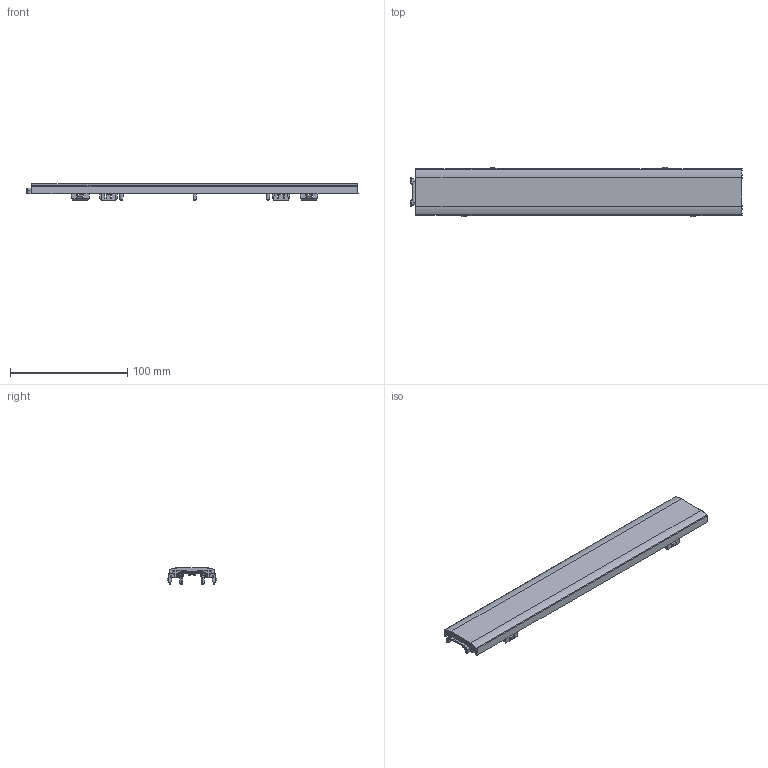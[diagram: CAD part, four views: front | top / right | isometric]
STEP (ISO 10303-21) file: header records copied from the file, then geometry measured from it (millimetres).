
FILE_DESCRIPTION(('CAx-IF Rec.Pracs.---Model Styling and Organization---1.2---2011-12-15','CAx-IF Rec.Pracs.---Geometric and Assembly Validation Properties---4.1---2014-06-16','CAx-IF Rec.Pracs.---PMI Polyline Presentation---2.0---2013-05-24'),'2;1');
FILE_NAME('022YM03Y07.stp','2019-12-13T07:05:53+01:00',(''),(''),'STEP Interface 4.3 by CT CoreTechnologie','3D_Evolution4.3 by CT CoreTechnologie','');
FILE_SCHEMA(('AP203_CONFIGURATION_CONTROLLED_3D_DESIGN_OF_MECHANICAL_PARTS_AND_ASSEMBLIES_MIM_LF'));
Length unit declared in the file: millimetre
Products named in the file (1): 022YM03Y07
Bounding box: 283.2 x 42.4 x 14.1 mm (x, y, z)
Volume: 36629.6 mm3; surface area: 33626.7 mm2
Topology: 1 solids, 1 shells, 1430 faces, 3830 edges, 2381 vertices
Faces by surface type: plane 724, cylinder 353, bspline 353
Entity records: 124056 total; most frequent: CARTESIAN_POINT 25255, PROPERTY_DEFINITION 8996, ORIENTED_EDGE 7576, DIRECTION 7036, SHAPE_REPRESENTATION 4499, SHAPE_DEFINITION_REPRESENTATION 4499, REPRESENTATION 4498, SHAPE_ASPECT 4498
